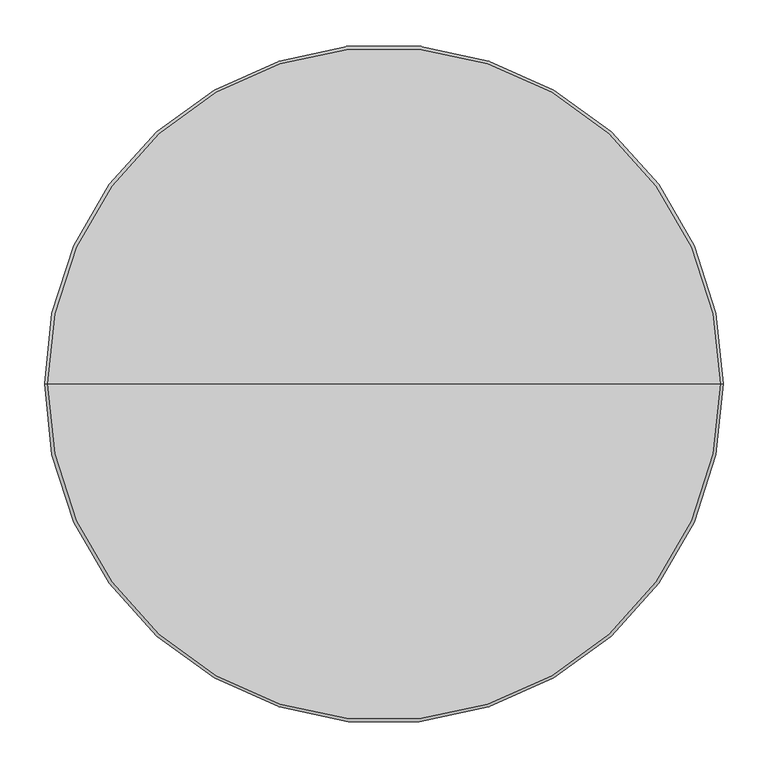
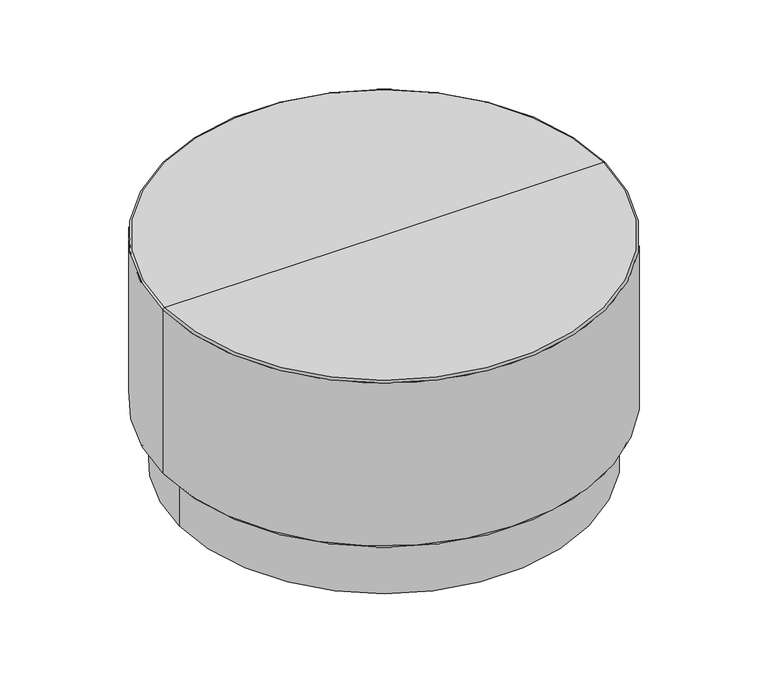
"""IFC4 building model written with IfcOpenShell, lengths in millimetres: furniture geometry, StanceHC-Drum_Table_Upholstered-Plinth_Base : DRT-30D-16-H."""

from ifc_helpers import new_model, si_unit, point, frame, frame_2d, origin, origin_with_axes, place, context, project, spatial, circle_curve, ellipse_curve, trimmed, segment, composite_curve, outline, extrude, source, transform, mapped, element, save
from ifc_brep_helpers import plane_surface, cylinder_surface, revolved_surface, advanced_brep


def furniture_91fcf8c9(model_context):
    return source(origin(), model_context, "Body", "SolidModel", [
        extrude(outline(composite_curve([segment(trimmed(circle_curve(frame_2d((0.0, 319.9664845)), 12.7), [point((-12.7, 319.9664845))], [point((12.7, 319.9664845))], False, "CARTESIAN"), True, "CONTINUOUS"), segment(trimmed(circle_curve(frame_2d((0.0, 319.9664845)), 12.7), [point((12.7, 319.9664845))], [point((-12.7, 319.9664845))], False, "CARTESIAN"), True, "CONTINUOUS")], self_intersect=False)), origin_with_axes(), (0.0, 0.0, 1.0), 4.7625),
        extrude(outline(composite_curve([segment(trimmed(circle_curve(frame_2d((0.0, -319.9664845)), 12.7), [point((-12.7, -319.9664845))], [point((12.7, -319.9664845))], False, "CARTESIAN"), True, "CONTINUOUS"), segment(trimmed(circle_curve(frame_2d((0.0, -319.9664845)), 12.7), [point((12.7, -319.9664845))], [point((-12.7, -319.9664845))], False, "CARTESIAN"), True, "CONTINUOUS")], self_intersect=False)), origin_with_axes(), (0.0, 0.0, 1.0), 4.7625),
        extrude(outline(composite_curve([segment(trimmed(circle_curve(frame_2d((323.8496404, 0.0)), 12.7), [point((311.1496404, 0.0))], [point((336.5496404, 0.0))], False, "CARTESIAN"), True, "CONTINUOUS"), segment(trimmed(circle_curve(frame_2d((323.8496404, 0.0)), 12.7), [point((336.5496404, 0.0))], [point((311.1496404, 0.0))], False, "CARTESIAN"), True, "CONTINUOUS")], self_intersect=False)), origin_with_axes(), (0.0, 0.0, 1.0), 4.7625),
        extrude(outline(composite_curve([segment(trimmed(circle_curve(frame_2d((-323.8496404, 0.0)), 12.7), [point((-336.5496404, 0.0))], [point((-311.1496404, 0.0))], False, "CARTESIAN"), True, "CONTINUOUS"), segment(trimmed(circle_curve(frame_2d((-323.8496404, 0.0)), 12.7), [point((-311.1496404, 0.0))], [point((-336.5496404, 0.0))], False, "CARTESIAN"), True, "CONTINUOUS")], self_intersect=False)), origin_with_axes(), (0.0, 0.0, 1.0), 4.7625),
        advanced_brep(
        [(-376.2042756, 0.0, 106.3625), (376.2042756, 0.0, 106.3625), (352.4246404, 0.0, 106.3625), (-352.4246404, 0.0, 106.3625), (-376.2042756, 0.0, 111.125), (376.2042756, 0.0, 111.125), (0.0, 0.0, 111.125), (-352.4246404, 0.0, 4.7625), (352.4246404, 0.0, 4.7625), (0.0, 0.0, 4.7625)],
        [
            (0, 1, circle_curve(frame((0.0, 0.0, 106.3625), z_axis=(0.0, 0.0, -1.0), x_axis=(1.0, 0.0, 0.0)), 376.2042756)),
            (1, 2),
            (2, 3, circle_curve(frame((0.0, 0.0, 106.3625), z_axis=(0.0, 0.0, 1.0), x_axis=(1.0, 0.0, 0.0)), 352.4246404)),
            (3, 0),
            (1, 0, circle_curve(frame((0.0, 0.0, 106.3625), z_axis=(0.0, 0.0, -1.0), x_axis=(1.0, 0.0, 0.0)), 376.2042756)),
            (3, 2, circle_curve(frame((0.0, 0.0, 106.3625), z_axis=(0.0, 0.0, 1.0), x_axis=(1.0, 0.0, 0.0)), 352.4246404)),
            (4, 5, circle_curve(frame((0.0, 0.0, 111.125), z_axis=(0.0, 0.0, -1.0), x_axis=(1.0, 0.0, 0.0)), 376.2042756)),
            (5, 1, circle_curve(frame((376.2042756, 0.0, 108.74375), z_axis=(0.0, 1.0, 0.0), x_axis=(1.0, 0.0, 0.0)), 2.38125)),
            (0, 4, circle_curve(frame((-376.2042756, 0.0, 108.74375), z_axis=(0.0, 1.0, 0.0), x_axis=(-1.0, 0.0, 0.0)), 2.38125)),
            (5, 4, circle_curve(frame((0.0, 0.0, 111.125), z_axis=(0.0, 0.0, -1.0), x_axis=(1.0, 0.0, 0.0)), 376.2042756)),
            (6, 5),
            (4, 6),
            (7, 8, circle_curve(frame((0.0, 0.0, 4.7625), z_axis=(0.0, 0.0, -1.0), x_axis=(1.0, 0.0, 0.0)), 352.4246404)),
            (8, 9),
            (9, 7),
            (8, 7, circle_curve(frame((0.0, 0.0, 4.7625), z_axis=(0.0, 0.0, -1.0), x_axis=(1.0, 0.0, 0.0)), 352.4246404)),
            (2, 8),
            (7, 3),
        ],
        [
            plane_surface(frame((0.0, 0.0, 106.3625), z_axis=(0.0, 0.0, -1.0), x_axis=(1.0, 0.0, 0.0))),
            revolved_surface(trimmed(ellipse_curve(frame((376.2042756, 0.0, 108.74375), z_axis=(0.0, -1.0, 0.0), x_axis=(1.0, 0.0, 0.0)), 2.38125, 2.38125), [point((376.2042756, 0.0, 106.3625))], [point((376.2042756, 0.0, 111.125))], True, "CARTESIAN"), (0.0, 0.0, 165.1), (0.0, 0.0, 1.0)),
            plane_surface(frame((0.0, 0.0, 111.125), z_axis=(0.0, 0.0, 1.0), x_axis=(1.0, 0.0, 0.0))),
            plane_surface(frame((0.0, 0.0, 4.7625), z_axis=(0.0, 0.0, -1.0), x_axis=(1.0, 0.0, 0.0))),
            cylinder_surface(frame((0.0, 0.0, 165.1), z_axis=(0.0, 0.0, 1.0), x_axis=(1.0, 0.0, 0.0)), 352.4246404),
        ],
        [
            (0, [[1, 2, 3, 4]]),
            (0, [[5, -4, 6, -2]]),
            (1, [[7, 8, -1, 9]]),
            (1, [[10, -9, -5, -8]]),
            (2, [[11, -7, 12]]),
            (2, [[-12, -10, -11]]),
            (3, [[13, 14, 15]]),
            (3, [[16, -15, -14]]),
            (4, [[-3, 17, -13, 18]]),
            (4, [[-6, -18, -16, -17]]),
        ],
    ),
        advanced_brep(
        [(-381.0, 0.0, 111.125), (381.0, 0.0, 111.125), (0.0, 0.0, 111.125), (-381.0, 0.0, 408.0389933), (381.0, 0.0, 408.0389933), (-377.8764933, 0.0, 411.1625), (377.8764933, 0.0, 411.1625), (0.0, 0.0, 411.1625)],
        [
            (0, 1, circle_curve(frame((0.0, 0.0, 111.125), z_axis=(0.0, 0.0, -1.0), x_axis=(1.0, 0.0, 0.0)), 381.0)),
            (1, 2),
            (2, 0),
            (1, 0, circle_curve(frame((0.0, 0.0, 111.125), z_axis=(0.0, 0.0, -1.0), x_axis=(1.0, 0.0, 0.0)), 381.0)),
            (3, 4, circle_curve(frame((0.0, 0.0, 408.0389933), z_axis=(0.0, 0.0, -1.0), x_axis=(1.0, 0.0, 0.0)), 381.0)),
            (4, 1),
            (0, 3),
            (4, 3, circle_curve(frame((0.0, 0.0, 408.0389933), z_axis=(0.0, 0.0, -1.0), x_axis=(1.0, 0.0, 0.0)), 381.0)),
            (5, 6, circle_curve(frame((0.0, 0.0, 411.1625), z_axis=(0.0, 0.0, -1.0), x_axis=(1.0, 0.0, 0.0)), 377.8764933)),
            (6, 4, circle_curve(frame((377.8764933, 0.0, 408.0389933), z_axis=(0.0, 1.0, 0.0), x_axis=(1.0, 0.0, 0.0)), 3.1235067)),
            (3, 5, circle_curve(frame((-377.8764933, 0.0, 408.0389933), z_axis=(0.0, 1.0, 0.0), x_axis=(-1.0, 0.0, 0.0)), 3.1235067)),
            (6, 5, circle_curve(frame((0.0, 0.0, 411.1625), z_axis=(0.0, 0.0, -1.0), x_axis=(1.0, 0.0, 0.0)), 377.8764933)),
            (7, 6),
            (5, 7),
        ],
        [
            plane_surface(frame((0.0, 0.0, 111.125), z_axis=(0.0, 0.0, -1.0), x_axis=(1.0, 0.0, 0.0))),
            cylinder_surface(frame((0.0, 0.0, 506.4125), z_axis=(0.0, 0.0, 1.0), x_axis=(1.0, 0.0, 0.0)), 381.0),
            revolved_surface(trimmed(ellipse_curve(frame((377.8764933, 0.0, 408.0389933), z_axis=(0.0, -1.0, 0.0), x_axis=(1.0, 0.0, 0.0)), 3.1235067, 3.1235067), [point((381.0, 0.0, 408.0389933))], [point((377.8764933, 0.0, 411.1625))], True, "CARTESIAN"), (0.0, 0.0, 506.4125), (0.0, 0.0, 1.0)),
            plane_surface(frame((0.0, 0.0, 411.1625), z_axis=(0.0, 0.0, 1.0), x_axis=(1.0, 0.0, 0.0))),
        ],
        [
            (0, [[1, 2, 3]]),
            (0, [[4, -3, -2]]),
            (1, [[5, 6, -1, 7]]),
            (1, [[8, -7, -4, -6]]),
            (2, [[9, 10, -5, 11]]),
            (2, [[12, -11, -8, -10]]),
            (3, [[13, -9, 14]]),
            (3, [[-14, -12, -13]]),
        ],
    ),
    ])


if __name__ == "__main__":
    model = new_model("IFC4")
    model_context = context("Model", 3, world=origin())
    ifc_project = project(units=[si_unit("LENGTHUNIT", "METRE", prefix="MILLI")], contexts=[model_context])
    site = spatial("IfcSite", under=ifc_project)
    building = spatial("IfcBuilding", under=site)
    placement = place(None, origin())
    furniture_shape = furniture_91fcf8c9(model_context)
    element("IfcFurniture", 1, ObjectType="StanceHC-Drum_Table_Upholstered-Plinth_Base : DRT-30D-16-H", at=placement, inside=building, context=model_context, shape_type="MappedRepresentation", body=[
        mapped(furniture_shape, transform((0.0, 0.0, 0.0), x_axis=(1.0, 0.0, 0.0), y_axis=(0.0, 1.0, 0.0), z_axis=(0.0, 0.0, 1.0))),
    ])
    save(model, "model.ifc")
